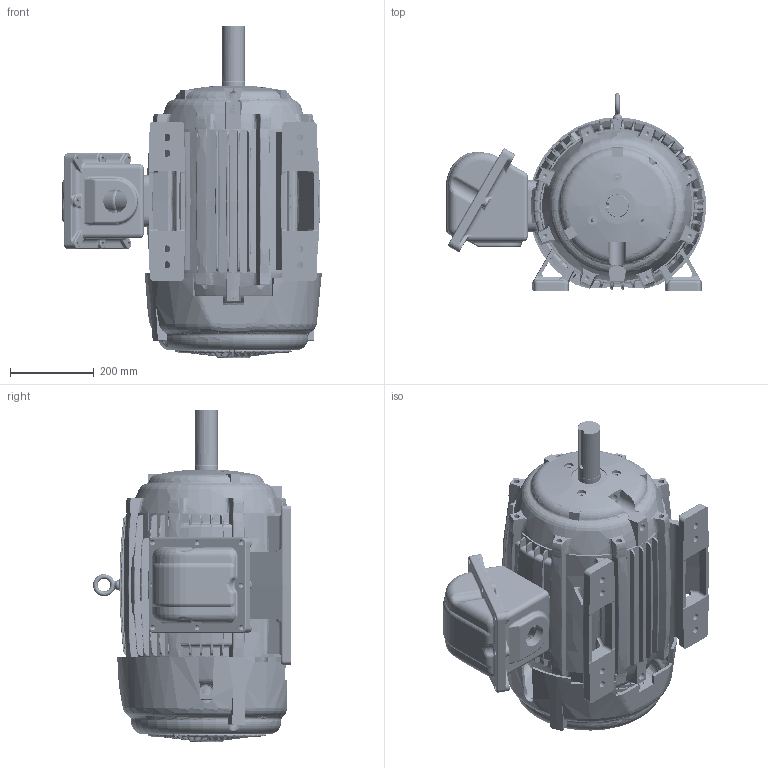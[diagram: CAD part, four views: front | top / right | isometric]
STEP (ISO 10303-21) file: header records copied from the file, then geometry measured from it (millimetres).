
FILE_DESCRIPTION((''),'2;1');
FILE_NAME('320_GP_ASSY_ASM','2014-06-26T',('NMC779F'),('Nidec Motor Corporation'),'PRO/ENGINEER BY PARAMETRIC TECHNOLOGY CORPORATION, 2013150','PRO/ENGINEER BY PARAMETRIC TECHNOLOGY CORPORATION, 2013150','');
FILE_SCHEMA(('CONFIG_CONTROL_DESIGN'));
Length unit declared in the file: inch
Products named in the file (11): 0459276; 0376463; 0376464; 0133166; 0116263; 0348536; 0557810; 0557809; 0464062; 0464064; 320_GP_ASSY_ASM
Assembly tree (10 placements, depth 2):
  320_GP_ASSY_ASM
    0459276
    0376463
    0376464
    0133166
    0116263
    0348536
    0557810
    0557809
    0464062
    0464064
Bounding box: 621.76 x 473.68 x 794.14 mm (x, y, z)
Volume: 20769667.5 mm3; surface area: 3839507 mm2
Topology: 12 solids, 12 shells, 5654 faces, 14331 edges, 8673 vertices
Faces by surface type: bspline 2706, plane 1112, cylinder 823, torus 464, cone 270, extrusion 198, sphere 81
Entity records: 276646 total; most frequent: CARTESIAN_POINT 163160, ORIENTED_EDGE 28562, DIRECTION 16150, EDGE_CURVE 14281, VERTEX_POINT 8673, B_SPLINE_CURVE_WITH_KNOTS 7772, AXIS2_PLACEMENT_3D 6474, EDGE_LOOP 5910
